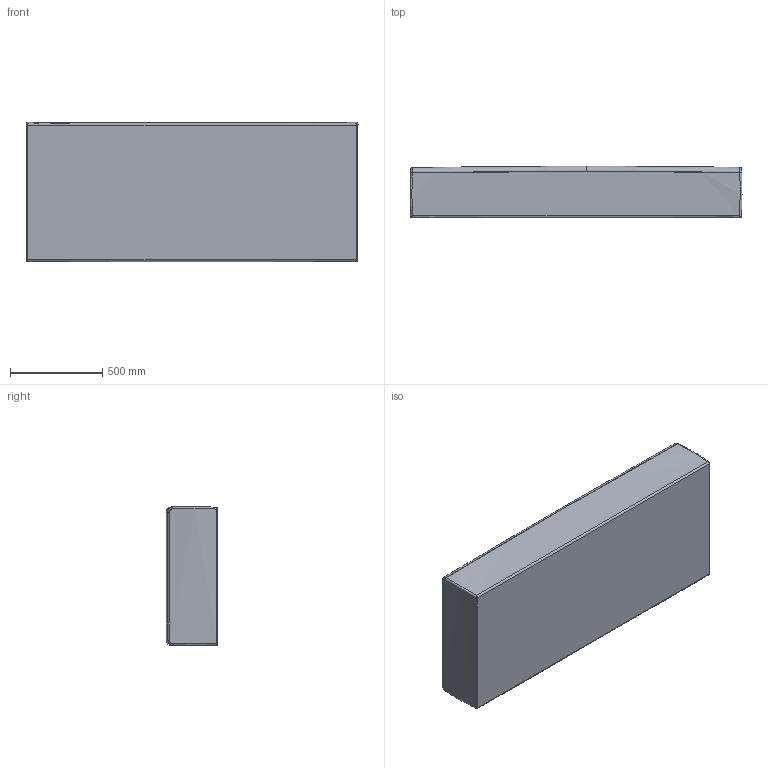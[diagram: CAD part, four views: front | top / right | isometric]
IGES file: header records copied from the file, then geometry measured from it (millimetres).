
Start section: SolidWorks IGES file using NURBS representation for surfaces
Global section: file name: D:\VICCARBE\PRODUCTOS\19-MASS\04-MODELADOS (PLANOS)\SOLIDWORKS\PIEZAS\Seats\01-IGES\VICCARBE_Mass_seat_180.IGS; native system: SolidWorks 2009; preprocessor: SolidWorks 2009; author: RUBEN; date: 110908.162504; units: millimetre
Bounding box: 1799.89 x 280.03 x 754.96 mm (x, y, z)
Surface area: 4024577.6 mm2 (no closed solid volume)
Topology: 0 solids, 0 shells, 30 faces, 328 edges, 324 vertices
Faces by surface type: bspline 30
